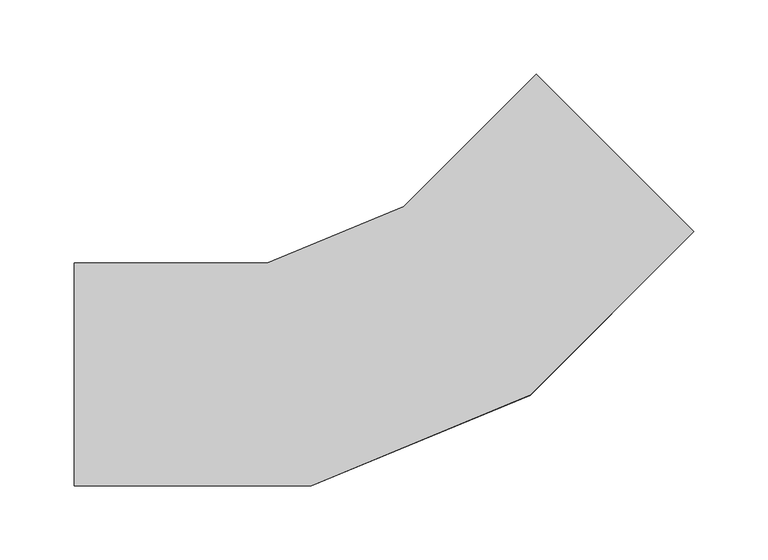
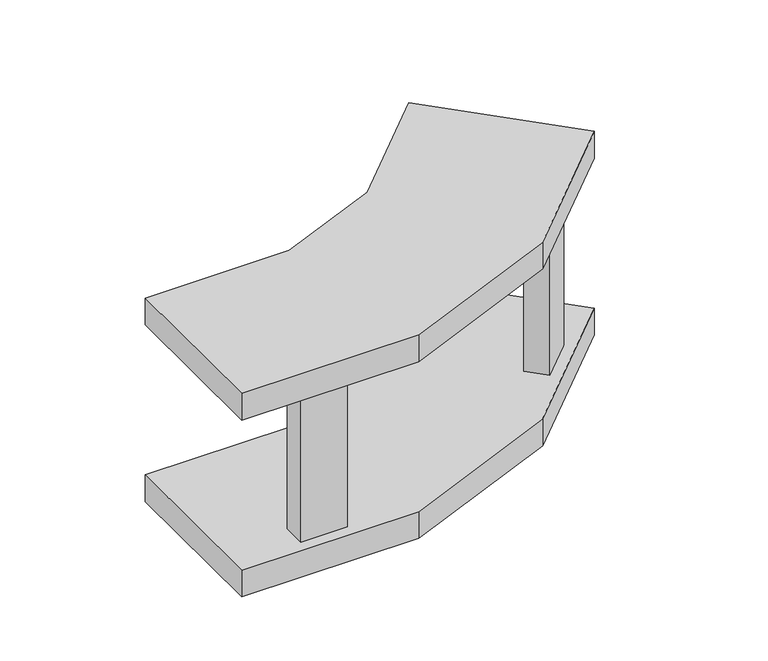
"""IFC4 building model written with IfcOpenShell, lengths in millimetres: cable carrier fitting geometry, Legrand_CableLadder_Swifts_Emerald_OutsideRiser-13 : Hot Dip Galvanised (after manufacture)."""

from ifc_helpers import new_model, si_unit, frame, origin, place, context, project, spatial, polyline, outline, extrude, source, transform, mapped, element, save


def cable_carrier_fitting_f09b7f1c(model_context):
    return source(origin(), model_context, "Body", "SweptSolid", [
        extrude(outline(polyline([(-155.8265146, -44.0), (-113.8265146, -44.0), (-113.8265146, -65.0), (-155.8265146, -65.0), (-155.8265146, -44.0)])), frame((0.0, 0.0, -71.5), z_axis=(0.0, 0.0, 1.0), x_axis=(1.0, 0.0, 0.0)), (0.0, 0.0, 1.0), 143.0),
        extrude(outline(polyline([(111.6001987, 49.3748019), (141.2986835, 79.0732868), (156.1479259, 64.2240444), (126.4494411, 34.5255595), (111.6001987, 49.3748019)])), frame((0.0, 0.0, -71.5), z_axis=(0.0, 0.0, 1.0), x_axis=(1.0, 0.0, 0.0)), (0.0, 0.0, 1.0), 143.0),
        extrude(outline(polyline([(-55.1621114, -75.0), (-214.8265146, -75.0), (-214.8265146, 75.0), (-84.9989665, 75.0), (7.070337, 113.1363542), (96.1852709, 202.251288), (202.251288, 96.1852709), (92.0385116, -14.0275055), (-55.1621114, -75.0)])), frame((0.0, 0.0, -97.0), z_axis=(0.0, 0.0, 1.0), x_axis=(1.0, 0.0, 0.0)), (0.0, 0.0, 1.0), 25.5),
        extrude(outline(polyline([(-214.8265146, -75.0), (-214.8265146, 75.0), (-84.9989665, 75.0), (7.070337, 113.1363542), (96.1852709, 202.251288), (202.251288, 96.1852709), (92.0385116, -14.0275055), (-55.1621114, -75.0), (-214.8265146, -75.0)])), frame((0.0, 0.0, 71.5), z_axis=(0.0, 0.0, 1.0), x_axis=(1.0, 0.0, 0.0)), (0.0, 0.0, 1.0), 25.5),
    ])


if __name__ == "__main__":
    model = new_model("IFC4")
    model_context = context("Model", 3, world=origin())
    ifc_project = project(units=[si_unit("LENGTHUNIT", "METRE", prefix="MILLI")], contexts=[model_context])
    site = spatial("IfcSite", under=ifc_project)
    building = spatial("IfcBuilding", under=site)
    placement = place(None, origin())
    cable_carrier_fitting_shape = cable_carrier_fitting_f09b7f1c(model_context)
    element("IfcCableCarrierFitting", 1, ObjectType="Legrand_CableLadder_Swifts_Emerald_OutsideRiser-13 : Hot Dip Galvanised (after manufacture)", at=placement, inside=building, context=model_context, shape_type="MappedRepresentation", body=[
        mapped(cable_carrier_fitting_shape, transform((0.0, 0.0, 0.0), x_axis=(1.0, 0.0, 0.0), y_axis=(0.0, 1.0, 0.0), z_axis=(0.0, 0.0, 1.0))),
    ])
    save(model, "model.ifc")
